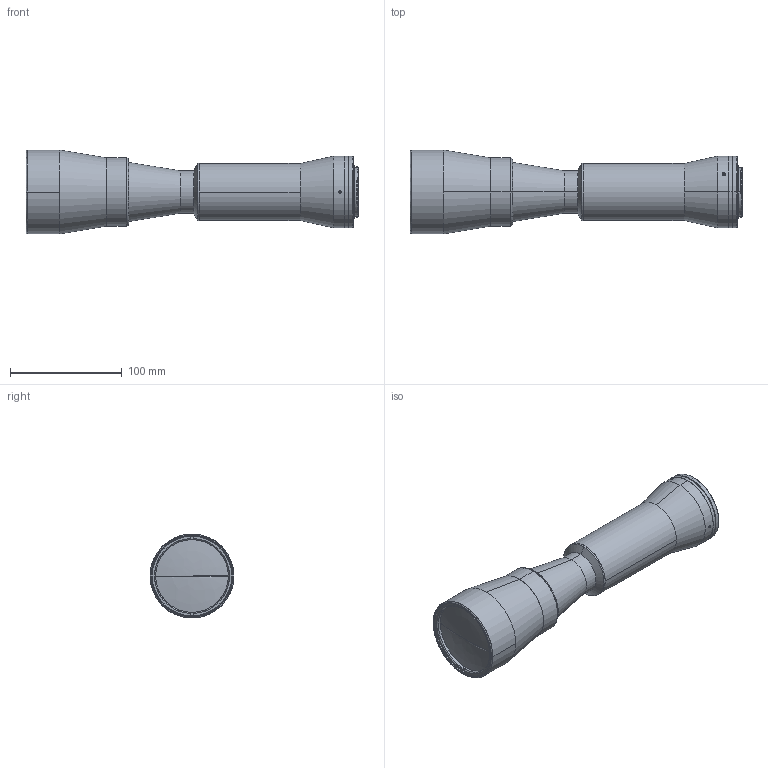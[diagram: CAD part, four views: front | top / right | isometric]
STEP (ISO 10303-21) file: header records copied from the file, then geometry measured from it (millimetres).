
FILE_DESCRIPTION(('LS-TCL-0153'),'2;1');
FILE_NAME('LS-TCL-0153.stp','2026-10-15T21:54:14',('LumaSpec Vision'),('LumaSpec Vision'),'LumaSpec Vision','LumaSpec Vision','');
FILE_SCHEMA(('AUTOMOTIVE_DESIGN { 1 0 10303 214 1 1 1 1 }'));
Length unit declared in the file: millimetre
Products named in the file (121): LumaSpec Vision
Assembly tree (120 placements, depth 2):
  LumaSpec Vision
    LumaSpec Vision
    LumaSpec Vision
    LumaSpec Vision
    LumaSpec Vision
    LumaSpec Vision
    LumaSpec Vision
    LumaSpec Vision
    LumaSpec Vision
    LumaSpec Vision
    LumaSpec Vision
    LumaSpec Vision
    LumaSpec Vision
    LumaSpec Vision
    LumaSpec Vision
    LumaSpec Vision
    LumaSpec Vision
    LumaSpec Vision
    LumaSpec Vision
    LumaSpec Vision
    LumaSpec Vision
    LumaSpec Vision
    LumaSpec Vision
    LumaSpec Vision
    LumaSpec Vision
    LumaSpec Vision
    LumaSpec Vision
    LumaSpec Vision
    LumaSpec Vision
    LumaSpec Vision
    LumaSpec Vision
    LumaSpec Vision
    LumaSpec Vision
    LumaSpec Vision
    LumaSpec Vision
    LumaSpec Vision
    LumaSpec Vision
    LumaSpec Vision
    LumaSpec Vision
    LumaSpec Vision
    LumaSpec Vision
    LumaSpec Vision
    LumaSpec Vision
    LumaSpec Vision
    LumaSpec Vision
    LumaSpec Vision
    LumaSpec Vision
    LumaSpec Vision
    LumaSpec Vision
    LumaSpec Vision
    LumaSpec Vision
    LumaSpec Vision
    LumaSpec Vision
    LumaSpec Vision
    LumaSpec Vision
    LumaSpec Vision
    LumaSpec Vision
    LumaSpec Vision
    LumaSpec Vision
    LumaSpec Vision
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Bounding box: 296.96 x 75 x 75 mm (x, y, z)
Surface area: 75848.9 mm2 (no closed solid volume)
Topology: 0 solids, 120 shells, 120 faces, 2478 edges, 2477 vertices
Faces by surface type: revolution 71, bspline 49
Entity records: 40772 total; most frequent: CARTESIAN_POINT 16712, B_SPLINE_CURVE_WITH_KNOTS 4490, ORIENTED_EDGE 2477, EDGE_CURVE 2477, VERTEX_POINT 2477, SURFACE_CURVE 2477, PCURVE 2477, DEFINITIONAL_REPRESENTATION 2477
